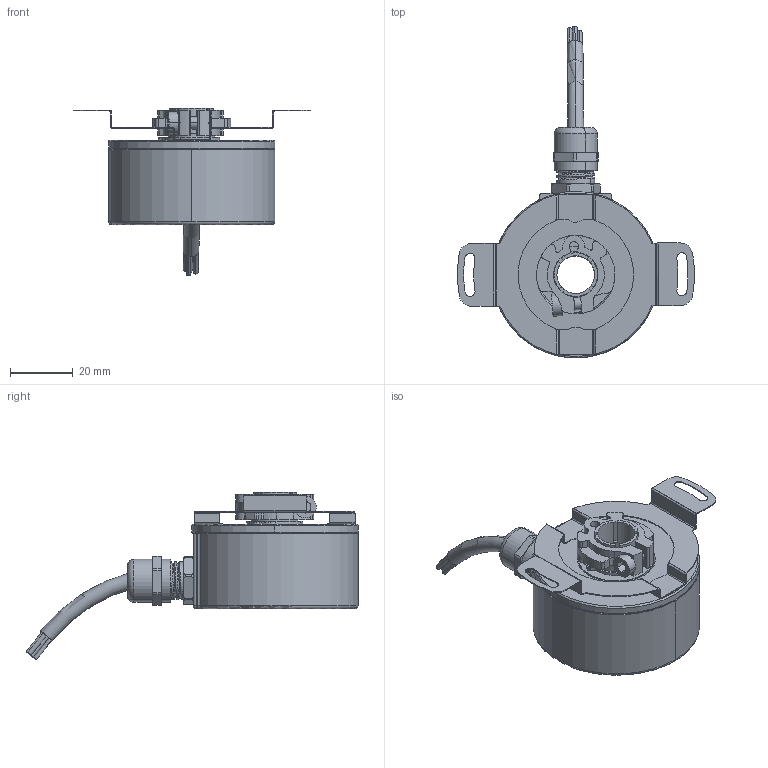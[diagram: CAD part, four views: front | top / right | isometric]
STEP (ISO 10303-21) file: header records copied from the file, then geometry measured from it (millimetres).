
FILE_DESCRIPTION (( 'STEP AP214' ), '1' );
FILE_NAME ('FNC50H12-C90-NGL3.STEP', '2022-06-21T05:55:01', ( '' ), ( '' ), 'SwSTEP 2.0', 'SolidWorks 2021', '' );
FILE_SCHEMA (( 'AUTOMOTIVE_DESIGN' ));
Length unit declared in the file: millimetre
Products named in the file (1): FNC50H12-C90-NGL3
Bounding box: 75.45 x 105.77 x 53.48 mm (x, y, z)
Volume: 60268.6 mm3; surface area: 24400.8 mm2
Topology: 2 solids, 18 shells, 751 faces, 2018 edges, 1283 vertices
Faces by surface type: cylinder 388, plane 259, cone 37, bspline 34, torus 31, sphere 2
Entity records: 31040 total; most frequent: CARTESIAN_POINT 12557, ORIENTED_EDGE 4032, DIRECTION 3830, EDGE_CURVE 2016, AXIS2_PLACEMENT_3D 1481, VERTEX_POINT 1283, VECTOR 868, LINE 868
